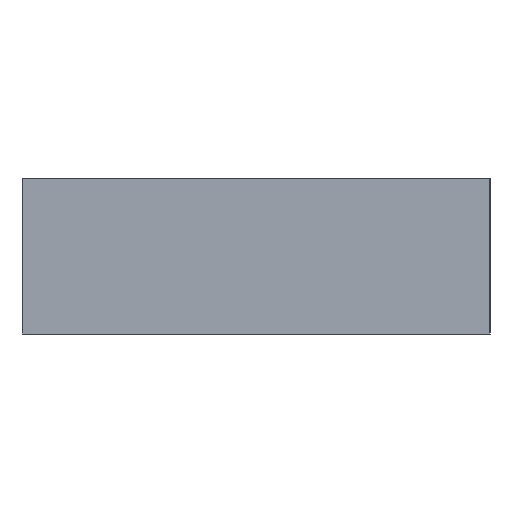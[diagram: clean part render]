
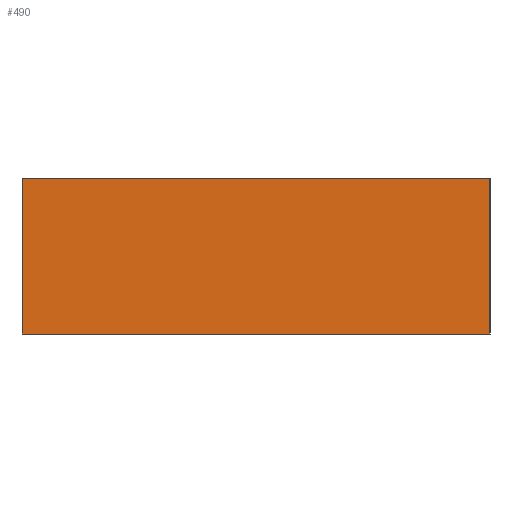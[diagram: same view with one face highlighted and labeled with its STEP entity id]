
A CAD part, left-side view. The second image highlights one B-rep face of the part: STEP entity #490.
In plain terms, the highlighted planar face has unit normal (-1, 0, 0).
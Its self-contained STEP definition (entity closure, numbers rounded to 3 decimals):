
#477=AXIS2_PLACEMENT_3D('Plane Axis2P3D',#474,#475,#476) ;
#126=CARTESIAN_POINT('Vertex',(0.,0.,14.)) ;
#142=CARTESIAN_POINT('Vertex',(0.,42.,14.)) ;
#145=CARTESIAN_POINT('Line Origine',(0.,21.,14.)) ;
#400=CARTESIAN_POINT('Line Origine',(0.,0.,7.)) ;
#404=CARTESIAN_POINT('Vertex',(0.,0.,0.)) ;
#459=CARTESIAN_POINT('Vertex',(0.,42.,0.)) ;
#462=CARTESIAN_POINT('Line Origine',(0.,42.,7.)) ;
#474=CARTESIAN_POINT('Axis2P3D Location',(0.,42.,0.)) ;
#479=CARTESIAN_POINT('Line Origine',(0.,21.,0.)) ;
#146=DIRECTION('Vector Direction',(0.,-1.,0.)) ;
#401=DIRECTION('Vector Direction',(0.,0.,1.)) ;
#463=DIRECTION('Vector Direction',(0.,0.,1.)) ;
#475=DIRECTION('Axis2P3D Direction',(-1.,0.,0.)) ;
#476=DIRECTION('Axis2P3D XDirection',(0.,-1.,0.)) ;
#480=DIRECTION('Vector Direction',(0.,-1.,0.)) ;
#147=VECTOR('Line Direction',#146,1.) ;
#402=VECTOR('Line Direction',#401,1.) ;
#464=VECTOR('Line Direction',#463,1.) ;
#481=VECTOR('Line Direction',#480,1.) ;
#485=ORIENTED_EDGE('',*,*,#466,.F.) ;
#486=ORIENTED_EDGE('',*,*,#483,.T.) ;
#487=ORIENTED_EDGE('',*,*,#406,.T.) ;
#488=ORIENTED_EDGE('',*,*,#149,.F.) ;
#490=ADVANCED_FACE('\X2\96F64EF651E04F554F53\X0\',(#489),#478,.T.) ;
#149=EDGE_CURVE('',#143,#127,#148,.T.) ;
#406=EDGE_CURVE('',#405,#127,#403,.T.) ;
#466=EDGE_CURVE('',#460,#143,#465,.T.) ;
#483=EDGE_CURVE('',#460,#405,#482,.T.) ;
#484=EDGE_LOOP('',(#485,#486,#487,#488)) ;
#489=FACE_OUTER_BOUND('',#484,.T.) ;
#148=LINE('Line',#145,#147) ;
#403=LINE('Line',#400,#402) ;
#465=LINE('Line',#462,#464) ;
#482=LINE('Line',#479,#481) ;
#478=PLANE('',#477) ;
#127=VERTEX_POINT('',#126) ;
#143=VERTEX_POINT('',#142) ;
#405=VERTEX_POINT('',#404) ;
#460=VERTEX_POINT('',#459) ;
